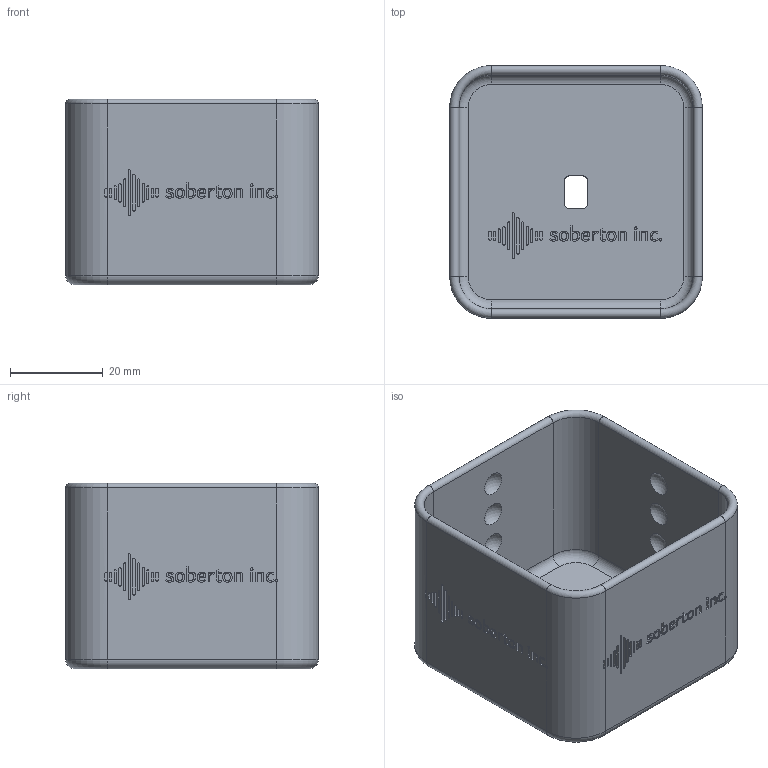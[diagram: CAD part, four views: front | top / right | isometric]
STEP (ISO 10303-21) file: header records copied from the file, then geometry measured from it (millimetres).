
FILE_DESCRIPTION(/* description */ ('Alibre Inc.'),/* implementation_level */ '2;1');
FILE_NAME(/* name */ 'export-C5D61B5A-82D3-4F36-A537-E5DA08DA1DAE',/* time_stamp */ '2020-08-19T17:17:26-05:00',/* author */ (''),/* organization */ (''),/* preprocessor_version */ 'ST-DEVELOPER v17',/* originating_system */ 'Alibre',/* authorisation */ '');
FILE_SCHEMA (('AUTOMOTIVE_DESIGN'));
Length unit declared in the file: millimetre
Bounding box: 54.5 x 54.5 x 40 mm (x, y, z)
Volume: 20157.5 mm3; surface area: 21265.9 mm2
Topology: 1 solids, 2 shells, 1529 faces, 4088 edges, 2720 vertices
Faces by surface type: bspline 810, plane 546, cylinder 145, sphere 16, torus 12
Full cylindrical faces by diameter (mm): 0.242 x1
Entity records: 48129 total; most frequent: CARTESIAN_POINT 15866, ORIENTED_EDGE 8174, EDGE_CURVE 4087, DIRECTION 3613, VERTEX_POINT 2720, VECTOR 2141, LINE 2141, EDGE_LOOP 1689
